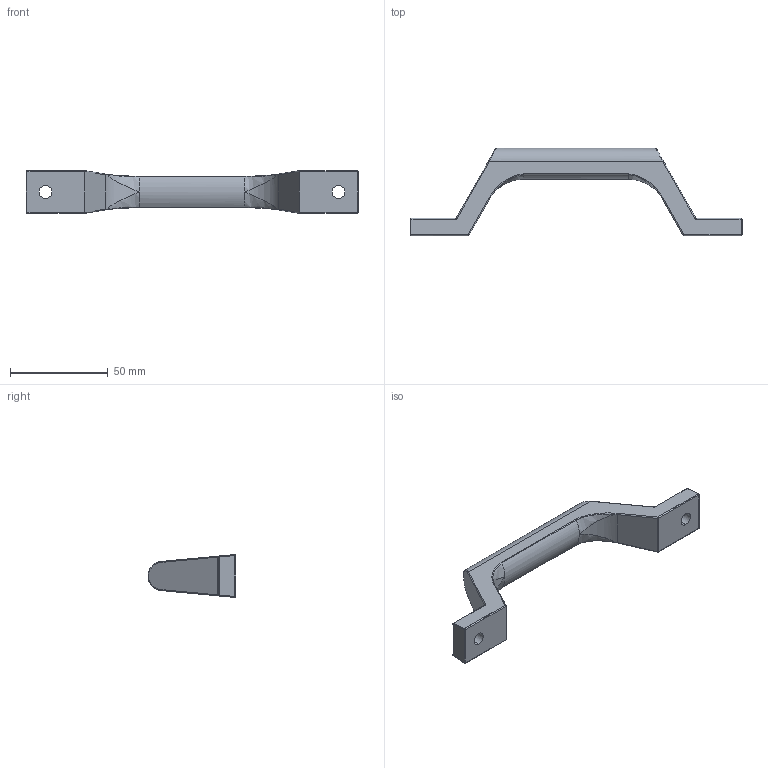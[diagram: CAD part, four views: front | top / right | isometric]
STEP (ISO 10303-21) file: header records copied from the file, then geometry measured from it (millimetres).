
FILE_DESCRIPTION (( 'STEP AP203' ), '1' );
FILE_NAME ('SK4-8080-2.STEP', '2018-11-02T05:35:33', ( 'admin' ), ( 'Microsoft' ), 'SwSTEP 2.0', 'SolidWorks 2015', '' );
FILE_SCHEMA (( 'CONFIG_CONTROL_DESIGN' ));
Length unit declared in the file: millimetre
Products named in the file (1): SK4-8080-2
Bounding box: 170 x 45 x 21.9 mm (x, y, z)
Volume: 40364.4 mm3; surface area: 12110.6 mm2
Topology: 1 solids, 1 shells, 92 faces, 230 edges, 130 vertices
Faces by surface type: cylinder 44, bspline 20, sphere 12, plane 12, cone 4
Entity records: 3839 total; most frequent: CARTESIAN_POINT 1830, ORIENTED_EDGE 438, DIRECTION 366, EDGE_CURVE 219, AXIS2_PLACEMENT_3D 144, VERTEX_POINT 129, EDGE_LOOP 96, FACE_OUTER_BOUND 92
